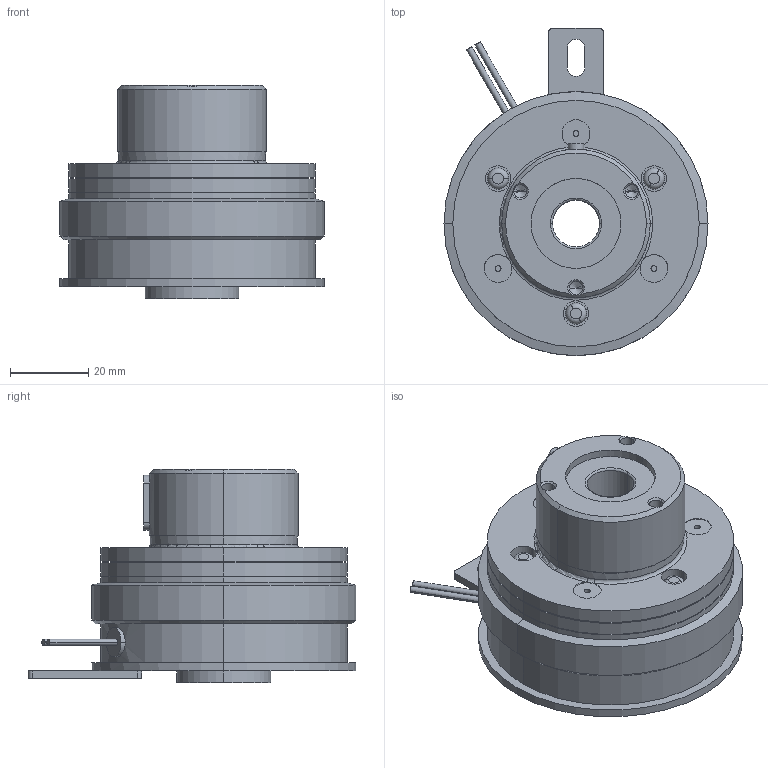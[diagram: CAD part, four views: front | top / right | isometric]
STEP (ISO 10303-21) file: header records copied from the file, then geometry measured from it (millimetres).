
FILE_DESCRIPTION (( 'STEP AP214' ), '1' );
FILE_NAME ('CS-06-35G R12DIN A12DIN.STEP', '2018-02-02T07:17:03', ( 'MIKI' ), ( '' ), 'SwSTEP 2.0', 'SolidWorks 2012', '' );
FILE_SCHEMA (( 'AUTOMOTIVE_DESIGN' ));
Length unit declared in the file: millimetre
Products named in the file (1): CS-06-35G R12DIN A12DIN
Bounding box: 67.5 x 83.75 x 54.5 mm (x, y, z)
Volume: 115791.9 mm3; surface area: 32313.7 mm2
Topology: 1 solids, 7 shells, 233 faces, 509 edges, 316 vertices
Faces by surface type: cylinder 116, plane 64, cone 32, torus 18, bspline 3
Entity records: 9245 total; most frequent: CARTESIAN_POINT 1343, DIRECTION 1243, ORIENTED_EDGE 998, AXIS2_PLACEMENT_3D 530, EDGE_CURVE 499, VERTEX_POINT 316, CIRCLE 299, EDGE_LOOP 279
